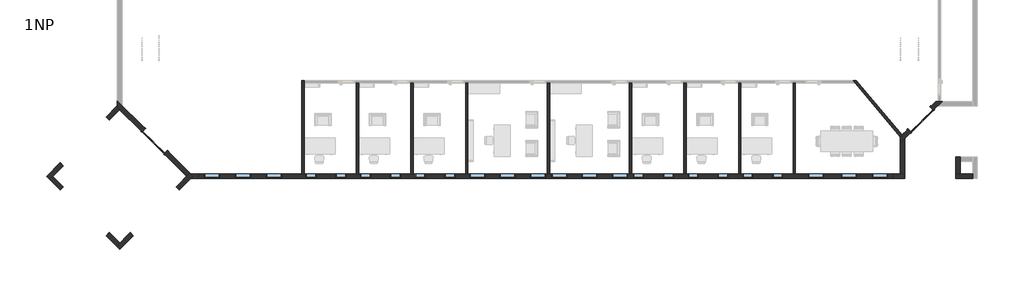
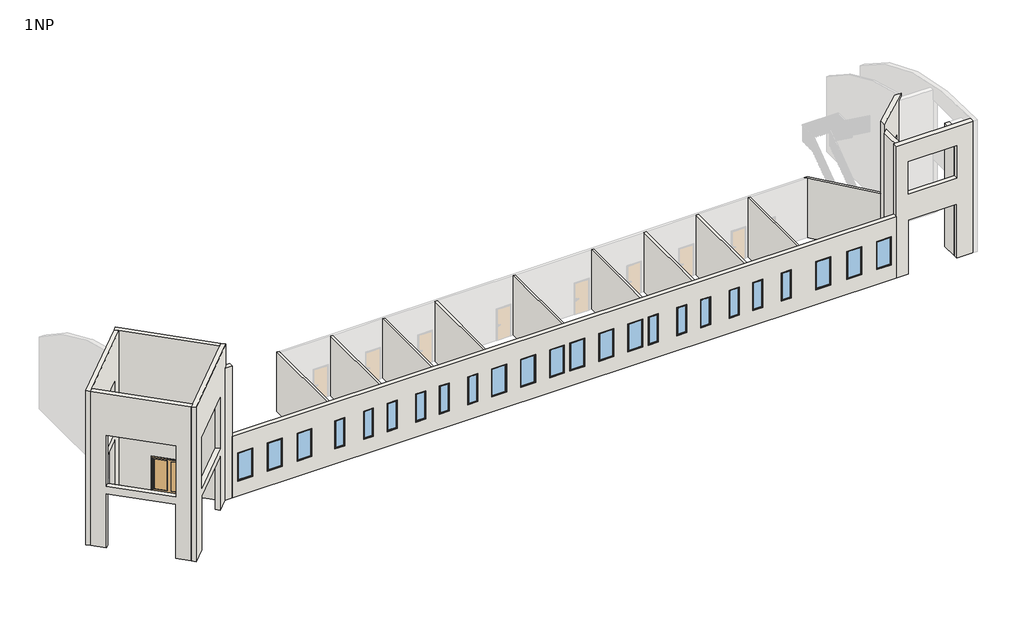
# One storey, part 1 of 2: 24 windows, 20 walls, 2 doors.
"""IFC4 building model written with IfcOpenShell, lengths in millimetres."""

from ifc_helpers import new_model, si_unit, frame, origin, origin_with_axes, place, context, project, spatial, polyline, circle_curve, ellipse_curve, outline, extrude, faceted_brep, transform, mapped, element, save
from ifc_brep_helpers import plane_surface, cylinder_surface, advanced_brep
from components import door_1800_x_1970mm_ce9160c6, door_1800_x_1970mm_3c2632e2, window_0610_x_1830mm_aeee110f, window_0915_x_1830mm_7ee91fd3

model = new_model("IFC4")

# Units and contexts
model_context = context("Model", 3, world=origin())
ifc_project = project(units=[si_unit("LENGTHUNIT", "METRE", prefix="MILLI")], contexts=[model_context])

# Site, building, storey
site = spatial("IfcSite", under=ifc_project)
building = spatial("IfcBuilding", under=site)
storey = spatial("IfcBuildingStorey", under=building, Name="1NP", Elevation=0.0)

# Doors
placement = place(None, origin())
door_1800_x_1970mm_shape = door_1800_x_1970mm_ce9160c6(model_context)
element("IfcDoor", 1, ObjectType="Dvoukridle prosklene : 1800 x 1970mm", at=placement, inside=storey, context=model_context, shape_type="MappedRepresentation", body=[
    mapped(door_1800_x_1970mm_shape, transform((-9492.0310093, -2706.151406, 0.0), x_axis=(-0.7071067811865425, 0.7071067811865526, 0.0), y_axis=(-0.7071067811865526, -0.7071067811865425, 0.0), z_axis=(0.0, 0.0, 1.0))),
])
door_1800_x_1970mm_2_shape = door_1800_x_1970mm_3c2632e2(model_context)
element("IfcDoor", 2, ObjectType="Dvoukridle prosklene : 1800 x 1970mm", at=placement, inside=storey, context=model_context, shape_type="MappedRepresentation", body=[
    mapped(door_1800_x_1970mm_2_shape, transform((35397.5898577, -1433.3591998, 0.0), x_axis=(0.7071067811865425, 0.7071067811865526, 0.0), y_axis=(-0.7071067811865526, 0.7071067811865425, 0.0), z_axis=(0.0, 0.0, 1.0))),
])

# Walls
element("IfcWall", 3, ObjectType="Exterior - EIFS on Mtl. Stud", at=placement, inside=storey, context=model_context, shape_type="AdvancedBrep", body=[
    advanced_brep(
    [(38455.6755273, -4624.9448694, 0.0), (37722.6755273, -4624.9448694, 0.0), (37455.6755273, -4624.9448694, 0.0), (37455.6755273, -4624.9448694, 3500.0), (34472.6755273, -4624.9448694, 3500.0), (34472.6755273, -4624.9448694, 0.0), (34205.6755273, -4624.9448694, 0.0), (33755.6755273, -4624.9448694, 0.0), (33755.6755273, -4624.9448694, 4000.0), (33755.6755273, -4624.9448694, 8556.4380679), (38455.6755273, -4624.9448694, 8556.4380679), (37455.6755273, -4624.9448694, 7300.0), (34472.6755273, -4624.9448694, 7300.0), (34472.6755273, -4624.9448694, 5200.0), (37455.6755273, -4624.9448694, 5200.0), (38455.6755273, -4891.9448694, 0.0), (38455.6755273, -4891.9448694, 8541.7849302), (33755.6755273, -4891.9448694, 8541.7849302), (33755.6755273, -4891.9448694, 4000.0), (33755.6755273, -4891.9448694, 0.0), (34472.6755273, -4891.9448694, 0.0), (34472.6755273, -4891.9448694, 3500.0), (37455.6755273, -4891.9448694, 3500.0), (37455.6755273, -4891.9448694, 0.0), (37455.6755273, -4891.9448694, 7300.0), (37455.6755273, -4891.9448694, 5200.0), (34472.6755273, -4891.9448694, 5200.0), (34472.6755273, -4891.9448694, 7300.0)],
    [
        (0, 1),
        (1, 2),
        (2, 3),
        (3, 4),
        (4, 5),
        (5, 6),
        (6, 7),
        (7, 8),
        (8, 9),
        (9, 10),
        (10, 0),
        (11, 12),
        (12, 13),
        (13, 14),
        (14, 11),
        (15, 16),
        (16, 17),
        (17, 18),
        (18, 19),
        (19, 20),
        (20, 21),
        (21, 22),
        (22, 23),
        (23, 15),
        (24, 25),
        (25, 26),
        (26, 27),
        (27, 24),
        (0, 15),
        (23, 2),
        (3, 22),
        (21, 4),
        (20, 5),
        (19, 7),
        (17, 9, circle_curve(frame((33755.6755273, -3782.5530793, -9232.9575956), z_axis=(-1.0, 0.0, 0.0), x_axis=(0.0, -1.0, 0.0)), 17809.3296337)),
        (11, 24),
        (27, 12),
        (13, 26),
        (25, 14),
        (10, 16, circle_curve(frame((38455.6755273, -3782.5530793, -9232.9575956), z_axis=(1.0, 0.0, 0.0), x_axis=(0.0, -1.0, 0.0)), 17809.3296337)),
    ],
    [
        plane_surface(frame((12455.6755273, -4624.9448694, 0.0), z_axis=(0.0, 1.0, 0.0), x_axis=(-1.0, 0.0, 0.0))),
        plane_surface(frame((12455.6755273, -4891.9448694, 0.0), z_axis=(0.0, -1.0, 0.0), x_axis=(1.0, 0.0, 0.0))),
        plane_surface(frame((38589.1755273, -4624.9448694, 0.0), z_axis=(0.0, 0.0, -1.0), x_axis=(0.0, -1.0, 0.0))),
        plane_surface(frame((37589.1755273, -4624.9448694, 3500.0), z_axis=(0.0, 0.0, -1.0), x_axis=(0.0, -1.0, 0.0))),
        plane_surface(frame((34472.6755273, -4624.9448694, 3500.0), z_axis=(1.0, 0.0, 0.0), x_axis=(0.0, -1.0, 0.0))),
        plane_surface(frame((34472.6755273, -4624.9448694, 0.0), z_axis=(0.0, 0.0, -1.0), x_axis=(0.0, -1.0, 0.0))),
        plane_surface(frame((33755.6755273, -4624.9448694, 0.0), z_axis=(-1.0, 0.0, 0.0), x_axis=(0.0, -1.0, 0.0))),
        plane_surface(frame((37589.1755273, -4624.9448694, 7300.0), z_axis=(0.0, 0.0, -1.0), x_axis=(0.0, -1.0, 0.0))),
        plane_surface(frame((34339.1755273, -4624.9448694, 5200.0), z_axis=(0.0, 0.0, 1.0), x_axis=(0.0, -1.0, 0.0))),
        plane_surface(frame((38455.6755273, 5741.5551306, 0.0), z_axis=(1.0, 0.0, 0.0), x_axis=(0.0, -1.0, 0.0))),
        plane_surface(frame((34472.6755273, -4758.4448694, 0.0), z_axis=(1.0, 0.0, 0.0), x_axis=(0.0, 1.0, 0.0))),
        plane_surface(frame((37455.6755273, -4758.4448694, 0.0), z_axis=(-1.0, 0.0, 0.0), x_axis=(0.0, -1.0, 0.0))),
        cylinder_surface(frame((39922.6755273, -3782.5530793, -9232.9575956), z_axis=(1.0, 0.0, 0.0), x_axis=(0.0, -1.0, 0.0)), 17809.3296337),
    ],
    [
        (0, [[1, 2, 3, 4, 5, 6, 7, 8, 9, 10, 11], [12, 13, 14, 15]]),
        (1, [[16, 17, 18, 19, 20, 21, 22, 23, 24], [25, 26, 27, 28]]),
        (2, [[-2, -1, 29, -24, 30]]),
        (3, [[-4, 31, -22, 32]]),
        (4, [[-5, -32, -21, 33]]),
        (5, [[-7, -6, -33, -20, 34]]),
        (6, [[-9, -8, -34, -19, -18, 35]]),
        (7, [[-12, 36, -28, 37]]),
        (8, [[-14, 38, -26, 39]]),
        (9, [[-11, 40, -16, -29]]),
        (10, [[-13, -37, -27, -38]]),
        (11, [[-3, -30, -23, -31]]),
        (11, [[-15, -39, -25, -36]]),
        (12, [[-10, -35, -17, -40]]),
    ],
),
])
element("IfcWall", 4, ObjectType="Exterior - EIFS on Mtl. Stud", at=placement, inside=storey, context=model_context, shape_type="AdvancedBrep", body=[
    advanced_brep(
    [(-6943.1051418, -4624.9448694, 0.0), (-7387.8076313, -4624.9448694, 0.0), (-7387.8076313, -4624.9448694, 8556.4380679), (-6943.1051418, -4624.9448694, 8556.4380679), (-6943.1051418, -4891.9448694, 0.0), (-6943.1051418, -4891.9448694, 8541.7849302), (-7387.8076313, -4891.9448694, 8541.7849302), (-7387.8076313, -4891.9448694, 0.0), (-7254.3076313, -4758.4448694, 0.0), (-7254.3076313, -4758.4448694, 8549.6141311)],
    [
        (0, 1),
        (1, 2),
        (2, 3),
        (3, 0),
        (4, 5),
        (5, 6),
        (6, 7),
        (7, 4),
        (0, 4),
        (7, 8),
        (8, 1),
        (3, 5, circle_curve(frame((-6943.1051418, -3782.5530793, -9232.9575956), z_axis=(1.0, 0.0, 0.0), x_axis=(0.0, -1.0, 0.0)), 17809.3296337)),
        (8, 9),
        (9, 2, ellipse_curve(frame((-8230.1994214, -3782.5530793, -9232.9575956), z_axis=(-0.7071067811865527, -0.7071067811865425, 0.0), x_axis=(0.7071067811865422, -0.7071067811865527, 0.0)), 25186.1955048, 17809.3296337)),
        (6, 9, ellipse_curve(frame((-6278.4158411, -3782.5530793, -9232.9575956), z_axis=(-0.7071067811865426, 0.7071067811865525, 0.0), x_axis=(0.7071067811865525, 0.7071067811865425, 0.0)), 25186.1955048, 17809.3296337)),
    ],
    [
        plane_surface(frame((12455.6755273, -4624.9448694, 0.0), z_axis=(0.0, 1.0, 0.0), x_axis=(-1.0, 0.0, 0.0))),
        plane_surface(frame((12455.6755273, -4891.9448694, 0.0), z_axis=(0.0, -1.0, 0.0), x_axis=(1.0, 0.0, 0.0))),
        plane_surface(frame((-6943.1051418, -4624.9448694, 0.0), z_axis=(0.0, 0.0, -1.0), x_axis=(0.0, -1.0, 0.0))),
        plane_surface(frame((-6943.1051418, -4624.9448694, 4000.0), z_axis=(1.0, 0.0, 0.0), x_axis=(0.0, -1.0, 0.0))),
        plane_surface(frame((-9352.1166743, -2660.6358263, -427.8219034), z_axis=(-0.7071067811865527, -0.7071067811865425, 0.0), x_axis=(0.7071067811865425, -0.7071067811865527, 0.0))),
        plane_surface(frame((-9352.1166743, -6856.2539125, -427.8219034), z_axis=(-0.7071067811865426, 0.7071067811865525, 0.0), x_axis=(-0.7071067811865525, -0.7071067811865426, 0.0))),
        cylinder_surface(frame((39922.6755273, -3782.5530793, -9232.9575956), z_axis=(1.0, 0.0, 0.0), x_axis=(0.0, -1.0, 0.0)), 17809.3296337),
    ],
    [
        (0, [[1, 2, 3, 4]]),
        (1, [[5, 6, 7, 8]]),
        (2, [[-1, 9, -8, 10, 11]]),
        (3, [[-4, 12, -5, -9]]),
        (4, [[-2, -11, 13, 14]]),
        (5, [[-10, -7, 15, -13]]),
        (6, [[-3, -14, -15, -6, -12]]),
    ],
),
])
element("IfcWall", 5, ObjectType="Exterior - EIFS on Mtl. Stud", at=placement, inside=storey, context=model_context, shape_type="Brep", body=[
    faceted_brep([(37722.6755273, -4624.9448694, 8000.0), (37722.6755273, -4624.9448694, 0.0), (37722.6755273, -3891.9448694, 0.0), (37722.6755273, -3624.9448694, 0.0), (37722.6755273, -3624.9448694, 8000.0), (37722.6755273, -3891.9448694, 8000.0), (37455.6755273, -4624.9448694, 0.0), (37455.6755273, -4624.9448694, 3500.0), (37455.6755273, -4624.9448694, 5200.0), (37455.6755273, -4624.9448694, 7300.0), (37455.6755273, -4624.9448694, 8000.0), (37455.6755273, -3624.9448694, 8000.0), (37455.6755273, -3624.9448694, 0.0)], [[[0, 1, 2, 3, 4, 5]], [[6, 7, 8, 9, 10, 11, 12]], [[3, 2, 1, 6, 12]], [[0, 5, 4, 11, 10]], [[4, 3, 12, 11]], [[0, 10, 9, 8, 7, 6, 1]]]),
])
element("IfcWall", 6, ObjectType="Exterior - EIFS on Mtl. Stud", at=placement, inside=storey, context=model_context, shape_type="AdvancedBrep", body=[
    advanced_brep(
    [(36270.5742736, -374.9448694, 0.0), (35951.8776052, -693.6415378, 0.0), (35951.8776052, -693.6415378, 2134.0), (34657.8721956, -1987.6469473, 2134.0), (34657.8721956, -1987.6469473, 0.0), (34302.1897841, -2343.3293589, 0.0), (34205.6755273, -2439.8436157, 0.0), (34205.6755273, -2439.8436157, 3850.0), (34205.6755273, -2439.8436157, 8525.6840557), (36270.5742736, -374.9448694, 8247.3292525), (35823.8290879, -821.6900551, 4000.0), (35823.8290879, -821.6900551, 6134.0), (34529.8236783, -2115.6954646, 6134.0), (34529.8236783, -2115.6954646, 4000.0), (36140.6751158, -882.4390484, 2134.0), (36140.6751158, -882.4390484, 0.0), (36381.1692947, -641.9448694, 0.0), (36648.1692947, -374.9448694, 0.0), (36648.1692947, -374.9448694, 8000.0), (36648.1692947, -374.9448694, 8247.3292525), (34205.6755273, -2817.4386368, 8550.2023068), (34205.6755273, -2817.4386368, 8000.0), (34205.6755273, -2817.4386368, 0.0), (34472.6755273, -2550.4386368, 0.0), (34846.6697062, -2176.4444579, 0.0), (34846.6697062, -2176.4444579, 2134.0), (36012.6265985, -1010.4875656, 4000.0), (34718.6211889, -2304.4929752, 4000.0), (34718.6211889, -2304.4929752, 6134.0), (36012.6265985, -1010.4875656, 6134.0), (36419.9255273, -374.9448694, 0.0), (36558.4255273, -374.9448694, 0.0), (34205.6755273, -2443.7758967, 0.0), (36419.9255273, -374.9448694, 8247.3292525), (36558.4255273, -374.9448694, 8247.3292525)],
    [
        (0, 1),
        (1, 2),
        (2, 3),
        (3, 4),
        (4, 5),
        (5, 6),
        (6, 7),
        (7, 8),
        (8, 9, ellipse_curve(frame((32862.9660637, -3782.5530793, -9232.9575956), z_axis=(-0.7071067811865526, 0.7071067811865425, 0.0), x_axis=(0.7071067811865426, 0.7071067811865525, 0.0)), 25186.1955048, 17809.3296337)),
        (9, 0),
        (10, 11),
        (11, 12),
        (12, 13),
        (13, 10),
        (14, 15),
        (15, 16),
        (16, 17),
        (17, 18),
        (18, 19),
        (19, 20, ellipse_curve(frame((33240.5610849, -3782.5530793, -9232.9575956), z_axis=(0.7071067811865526, -0.7071067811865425, 0.0), x_axis=(0.7071067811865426, 0.7071067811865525, 0.0)), 25186.1955048, 17809.3296337)),
        (20, 21),
        (21, 22),
        (22, 23),
        (23, 24),
        (24, 25),
        (25, 14),
        (26, 27),
        (27, 28),
        (28, 29),
        (29, 26),
        (15, 1),
        (0, 30),
        (30, 31),
        (31, 17),
        (22, 32),
        (32, 6),
        (4, 24),
        (9, 33),
        (33, 34),
        (34, 19),
        (20, 8, circle_curve(frame((34205.6755273, -3782.5530793, -9232.9575956), z_axis=(-1.0, 0.0, 0.0), x_axis=(0.0, -1.0, 0.0)), 17809.3296337)),
        (14, 2),
        (25, 3),
        (26, 10),
        (13, 27),
        (12, 28),
        (11, 29),
    ],
    [
        plane_surface(frame((38416.1447376, 1770.6255947, 0.0), z_axis=(-0.7071067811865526, 0.7071067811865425, 0.0), x_axis=(-0.7071067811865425, -0.7071067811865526, 0.0))),
        plane_surface(frame((38604.9422482, 1581.8280841, 0.0), z_axis=(0.7071067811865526, -0.7071067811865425, 0.0), x_axis=(0.7071067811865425, 0.7071067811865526, 0.0))),
        plane_surface(frame((36231.4730288, -414.0461141, 0.0), z_axis=(0.0, 0.0, -1.0), x_axis=(0.7071067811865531, -0.707106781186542, 0.0))),
        plane_surface(frame((38455.6755273, -374.9448694, 0.0), z_axis=(0.0, 1.0, 0.0), x_axis=(-1.0, 0.0, 0.0))),
        plane_surface(frame((34205.6755273, -4758.4448694, 0.0), z_axis=(-1.0, 0.0, 0.0), x_axis=(0.0, -1.0, 0.0))),
        cylinder_surface(frame((39922.6755273, -3782.5530793, -9232.9575956), z_axis=(1.0, 0.0, 0.0), x_axis=(0.0, -1.0, 0.0)), 17809.3296337),
        plane_surface(frame((35951.8776052, -693.6415378, 0.0), z_axis=(-0.7071067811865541, -0.7071067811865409, 0.0), x_axis=(0.7071067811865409, -0.7071067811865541, 0.0))),
        plane_surface(frame((35951.8776052, -693.6415378, 2134.0), z_axis=(0.0, 0.0, -1.0), x_axis=(0.7071067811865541, -0.7071067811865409, 0.0))),
        plane_surface(frame((34657.8721956, -1987.6469473, 2134.0), z_axis=(0.707106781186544, 0.7071067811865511, 0.0), x_axis=(0.7071067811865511, -0.707106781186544, 0.0))),
        plane_surface(frame((36012.6265985, -1010.4875656, 4000.0), z_axis=(0.0, 0.0, 1.0), x_axis=(-0.7071067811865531, 0.707106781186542, 0.0))),
        plane_surface(frame((34718.6211889, -2304.4929752, 4000.0), z_axis=(0.707106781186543, 0.7071067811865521, 0.0), x_axis=(-0.7071067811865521, 0.707106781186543, 0.0))),
        plane_surface(frame((34718.6211889, -2304.4929752, 6134.0), z_axis=(0.0, 0.0, -1.0000000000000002), x_axis=(-0.707106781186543, 0.7071067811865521, 0.0))),
        plane_surface(frame((36012.6265985, -1010.4875656, 6134.0), z_axis=(-0.707106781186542, -0.7071067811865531, 0.0), x_axis=(-0.7071067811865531, 0.707106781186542, 0.0))),
    ],
    [
        (0, [[1, 2, 3, 4, 5, 6, 7, 8, 9, 10], [11, 12, 13, 14]]),
        (1, [[15, 16, 17, 18, 19, 20, 21, 22, 23, 24, 25, 26], [27, 28, 29, 30]]),
        (2, [[-17, -16, 31, -1, 32, 33, 34]]),
        (2, [[-24, -23, 35, 36, -6, -5, 37]]),
        (3, [[-10, 38, 39, 40, -19, -18, -34, -33, -32]]),
        (4, [[-36, -35, -22, -21, 41, -8, -7]]),
        (5, [[-9, -41, -20, -40, -39, -38]]),
        (6, [[-2, -31, -15, 42]]),
        (7, [[-3, -42, -26, 43]]),
        (8, [[-4, -43, -25, -37]]),
        (9, [[-27, 44, -14, 45]]),
        (10, [[-28, -45, -13, 46]]),
        (11, [[-29, -46, -12, 47]]),
        (12, [[-30, -47, -11, -44]]),
    ],
),
])
element("IfcWall", 7, ObjectType="Exterior - EIFS on Mtl. Stud", at=placement, inside=storey, context=model_context, shape_type="Brep", body=[
    faceted_brep([(34472.6755273, -4624.9448694, 8000.0), (34472.6755273, -4624.9448694, 7300.0), (34472.6755273, -4624.9448694, 5200.0), (34472.6755273, -4624.9448694, 3500.0), (34472.6755273, -4624.9448694, 0.0), (34472.6755273, -2550.4386368, 0.0), (34472.6755273, -2550.4386368, 8000.0), (34205.6755273, -4624.9448694, 0.0), (34205.6755273, -4624.9448694, 8000.0), (34205.6755273, -2817.4386368, 8000.0), (34205.6755273, -2817.4386368, 0.0)], [[[0, 1, 2, 3, 4, 5, 6]], [[7, 8, 9, 10]], [[5, 4, 7, 10]], [[0, 6, 9, 8]], [[5, 10, 9, 6]], [[0, 8, 7, 4, 3, 2, 1]]]),
])
element("IfcWall", 8, ObjectType="Exterior - EIFS on Mtl. Stud", at=placement, inside=storey, context=model_context, shape_type="Brep", body=[
    faceted_brep([(33755.6755273, -4624.9448694, 0.0), (28058.4255273, -4624.9448694, 0.0), (27919.9255273, -4624.9448694, 0.0), (24858.4255273, -4624.9448694, 0.0), (24719.9255273, -4624.9448694, 0.0), (21658.4255273, -4624.9448694, 0.0), (21519.9255273, -4624.9448694, 0.0), (18458.4255273, -4624.9448694, 0.0), (18319.9255273, -4624.9448694, 0.0), (13658.4255273, -4624.9448694, 0.0), (13519.9255273, -4624.9448694, 0.0), (8858.4255273, -4624.9448694, 0.0), (8719.9255273, -4624.9448694, 0.0), (5658.4255273, -4624.9448694, 0.0), (5519.9255273, -4624.9448694, 0.0), (2458.4255273, -4624.9448694, 0.0), (2319.9255273, -4624.9448694, 0.0), (-741.5744727, -4624.9448694, 0.0), (-880.0744727, -4624.9448694, 0.0), (-6943.1051418, -4624.9448694, 0.0), (-6943.1051418, -4624.9448694, 4000.0), (33755.6755273, -4624.9448694, 4000.0), (33455.6755273, -4624.9448694, 970.0), (33455.6755273, -4624.9448694, 2800.0), (32540.6755273, -4624.9448694, 2800.0), (32540.6755273, -4624.9448694, 970.0), (31640.6755273, -4624.9448694, 970.0), (31640.6755273, -4624.9448694, 2800.0), (30725.6755273, -4624.9448694, 2800.0), (30725.6755273, -4624.9448694, 970.0), (29725.6755273, -4624.9448694, 970.0), (29725.6755273, -4624.9448694, 2800.0), (28810.6755273, -4624.9448694, 2800.0), (28810.6755273, -4624.9448694, 970.0), (-5680.0744727, -4624.9448694, 970.0), (-5680.0744727, -4624.9448694, 2800.0), (-6595.0744727, -4624.9448694, 2800.0), (-6595.0744727, -4624.9448694, 970.0), (-3865.0744727, -4624.9448694, 970.0), (-3865.0744727, -4624.9448694, 2800.0), (-4780.0744727, -4624.9448694, 2800.0), (-4780.0744727, -4624.9448694, 970.0), (-2050.0744727, -4624.9448694, 970.0), (-2050.0744727, -4624.9448694, 2800.0), (-2965.0744727, -4624.9448694, 2800.0), (-2965.0744727, -4624.9448694, 970.0), (-31.5744727, -4624.9448694, 970.0), (-31.5744727, -4624.9448694, 2800.0), (-641.5744727, -4624.9448694, 2800.0), (-641.5744727, -4624.9448694, 970.0), (1719.9255273, -4624.9448694, 970.0), (1719.9255273, -4624.9448694, 2800.0), (1109.9255273, -4624.9448694, 2800.0), (1109.9255273, -4624.9448694, 970.0), (3168.4255273, -4624.9448694, 970.0), (3168.4255273, -4624.9448694, 2800.0), (2558.4255273, -4624.9448694, 2800.0), (2558.4255273, -4624.9448694, 970.0), (4919.9255273, -4624.9448694, 970.0), (4919.9255273, -4624.9448694, 2800.0), (4309.9255273, -4624.9448694, 2800.0), (4309.9255273, -4624.9448694, 970.0), (25568.4255273, -4624.9448694, 970.0), (25568.4255273, -4624.9448694, 2800.0), (24958.4255273, -4624.9448694, 2800.0), (24958.4255273, -4624.9448694, 970.0), (27319.9255273, -4624.9448694, 970.0), (27319.9255273, -4624.9448694, 2800.0), (26709.9255273, -4624.9448694, 2800.0), (26709.9255273, -4624.9448694, 970.0), (22368.4255273, -4624.9448694, 970.0), (22368.4255273, -4624.9448694, 2800.0), (21758.4255273, -4624.9448694, 2800.0), (21758.4255273, -4624.9448694, 970.0), (24119.9255273, -4624.9448694, 970.0), (24119.9255273, -4624.9448694, 2800.0), (23509.9255273, -4624.9448694, 2800.0), (23509.9255273, -4624.9448694, 970.0), (19168.4255273, -4624.9448694, 970.0), (19168.4255273, -4624.9448694, 2800.0), (18558.4255273, -4624.9448694, 2800.0), (18558.4255273, -4624.9448694, 970.0), (20919.9255273, -4624.9448694, 970.0), (20919.9255273, -4624.9448694, 2800.0), (20309.9255273, -4624.9448694, 2800.0), (20309.9255273, -4624.9448694, 970.0), (9873.4255273, -4624.9448694, 970.0), (9873.4255273, -4624.9448694, 2800.0), (8958.4255273, -4624.9448694, 2800.0), (8958.4255273, -4624.9448694, 970.0), (11646.6755273, -4624.9448694, 970.0), (11646.6755273, -4624.9448694, 2800.0), (10731.6755273, -4624.9448694, 2800.0), (10731.6755273, -4624.9448694, 970.0), (6368.4255273, -4624.9448694, 970.0), (6368.4255273, -4624.9448694, 2800.0), (5758.4255273, -4624.9448694, 2800.0), (5758.4255273, -4624.9448694, 970.0), (8119.9255273, -4624.9448694, 970.0), (8119.9255273, -4624.9448694, 2800.0), (7509.9255273, -4624.9448694, 2800.0), (7509.9255273, -4624.9448694, 970.0), (13419.9255273, -4624.9448694, 970.0), (13419.9255273, -4624.9448694, 2800.0), (12504.9255273, -4624.9448694, 2800.0), (12504.9255273, -4624.9448694, 970.0), (14673.4255273, -4624.9448694, 970.0), (14673.4255273, -4624.9448694, 2800.0), (13758.4255273, -4624.9448694, 2800.0), (13758.4255273, -4624.9448694, 970.0), (16446.6755273, -4624.9448694, 970.0), (16446.6755273, -4624.9448694, 2800.0), (15531.6755273, -4624.9448694, 2800.0), (15531.6755273, -4624.9448694, 970.0), (18219.9255273, -4624.9448694, 970.0), (18219.9255273, -4624.9448694, 2800.0), (17304.9255273, -4624.9448694, 2800.0), (17304.9255273, -4624.9448694, 970.0), (-6943.1051418, -4891.9448694, 0.0), (33755.6755273, -4891.9448694, 0.0), (33755.6755273, -4891.9448694, 4000.0), (-6943.1051418, -4891.9448694, 4000.0), (33455.6755273, -4891.9448694, 2800.0), (33455.6755273, -4891.9448694, 970.0), (32540.6755273, -4891.9448694, 970.0), (32540.6755273, -4891.9448694, 2800.0), (31640.6755273, -4891.9448694, 2800.0), (31640.6755273, -4891.9448694, 970.0), (30725.6755273, -4891.9448694, 970.0), (30725.6755273, -4891.9448694, 2800.0), (29725.6755273, -4891.9448694, 2800.0), (29725.6755273, -4891.9448694, 970.0), (28810.6755273, -4891.9448694, 970.0), (28810.6755273, -4891.9448694, 2800.0), (-5680.0744727, -4891.9448694, 2800.0), (-5680.0744727, -4891.9448694, 970.0), (-6595.0744727, -4891.9448694, 970.0), (-6595.0744727, -4891.9448694, 2800.0), (-3865.0744727, -4891.9448694, 2800.0), (-3865.0744727, -4891.9448694, 970.0), (-4780.0744727, -4891.9448694, 970.0), (-4780.0744727, -4891.9448694, 2800.0), (-2050.0744727, -4891.9448694, 2800.0), (-2050.0744727, -4891.9448694, 970.0), (-2965.0744727, -4891.9448694, 970.0), (-2965.0744727, -4891.9448694, 2800.0), (-31.5744727, -4891.9448694, 2800.0), (-31.5744727, -4891.9448694, 970.0), (-641.5744727, -4891.9448694, 970.0), (-641.5744727, -4891.9448694, 2800.0), (1719.9255273, -4891.9448694, 2800.0), (1719.9255273, -4891.9448694, 970.0), (1109.9255273, -4891.9448694, 970.0), (1109.9255273, -4891.9448694, 2800.0), (3168.4255273, -4891.9448694, 2800.0), (3168.4255273, -4891.9448694, 970.0), (2558.4255273, -4891.9448694, 970.0), (2558.4255273, -4891.9448694, 2800.0), (4919.9255273, -4891.9448694, 2800.0), (4919.9255273, -4891.9448694, 970.0), (4309.9255273, -4891.9448694, 970.0), (4309.9255273, -4891.9448694, 2800.0), (25568.4255273, -4891.9448694, 2800.0), (25568.4255273, -4891.9448694, 970.0), (24958.4255273, -4891.9448694, 970.0), (24958.4255273, -4891.9448694, 2800.0), (27319.9255273, -4891.9448694, 2800.0), (27319.9255273, -4891.9448694, 970.0), (26709.9255273, -4891.9448694, 970.0), (26709.9255273, -4891.9448694, 2800.0), (22368.4255273, -4891.9448694, 2800.0), (22368.4255273, -4891.9448694, 970.0), (21758.4255273, -4891.9448694, 970.0), (21758.4255273, -4891.9448694, 2800.0), (24119.9255273, -4891.9448694, 2800.0), (24119.9255273, -4891.9448694, 970.0), (23509.9255273, -4891.9448694, 970.0), (23509.9255273, -4891.9448694, 2800.0), (19168.4255273, -4891.9448694, 2800.0), (19168.4255273, -4891.9448694, 970.0), (18558.4255273, -4891.9448694, 970.0), (18558.4255273, -4891.9448694, 2800.0), (20919.9255273, -4891.9448694, 2800.0), (20919.9255273, -4891.9448694, 970.0), (20309.9255273, -4891.9448694, 970.0), (20309.9255273, -4891.9448694, 2800.0), (9873.4255273, -4891.9448694, 2800.0), (9873.4255273, -4891.9448694, 970.0), (8958.4255273, -4891.9448694, 970.0), (8958.4255273, -4891.9448694, 2800.0), (11646.6755273, -4891.9448694, 2800.0), (11646.6755273, -4891.9448694, 970.0), (10731.6755273, -4891.9448694, 970.0), (10731.6755273, -4891.9448694, 2800.0), (6368.4255273, -4891.9448694, 2800.0), (6368.4255273, -4891.9448694, 970.0), (5758.4255273, -4891.9448694, 970.0), (5758.4255273, -4891.9448694, 2800.0), (8119.9255273, -4891.9448694, 2800.0), (8119.9255273, -4891.9448694, 970.0), (7509.9255273, -4891.9448694, 970.0), (7509.9255273, -4891.9448694, 2800.0), (13419.9255273, -4891.9448694, 2800.0), (13419.9255273, -4891.9448694, 970.0), (12504.9255273, -4891.9448694, 970.0), (12504.9255273, -4891.9448694, 2800.0), (14673.4255273, -4891.9448694, 970.0), (13758.4255273, -4891.9448694, 970.0), (13758.4255273, -4891.9448694, 2800.0), (14673.4255273, -4891.9448694, 2800.0), (16446.6755273, -4891.9448694, 970.0), (15531.6755273, -4891.9448694, 970.0), (15531.6755273, -4891.9448694, 2800.0), (16446.6755273, -4891.9448694, 2800.0), (18219.9255273, -4891.9448694, 970.0), (17304.9255273, -4891.9448694, 970.0), (17304.9255273, -4891.9448694, 2800.0), (18219.9255273, -4891.9448694, 2800.0)], [[[0, 1, 2, 3, 4, 5, 6, 7, 8, 9, 10, 11, 12, 13, 14, 15, 16, 17, 18, 19, 20, 21], [22, 23, 24, 25], [26, 27, 28, 29], [30, 31, 32, 33], [34, 35, 36, 37], [38, 39, 40, 41], [42, 43, 44, 45], [46, 47, 48, 49], [50, 51, 52, 53], [54, 55, 56, 57], [58, 59, 60, 61], [62, 63, 64, 65], [66, 67, 68, 69], [70, 71, 72, 73], [74, 75, 76, 77], [78, 79, 80, 81], [82, 83, 84, 85], [86, 87, 88, 89], [90, 91, 92, 93], [94, 95, 96, 97], [98, 99, 100, 101], [102, 103, 104, 105], [106, 107, 108, 109], [110, 111, 112, 113], [114, 115, 116, 117]], [[118, 119, 120, 121], [122, 123, 124, 125], [126, 127, 128, 129], [130, 131, 132, 133], [134, 135, 136, 137], [138, 139, 140, 141], [142, 143, 144, 145], [146, 147, 148, 149], [150, 151, 152, 153], [154, 155, 156, 157], [158, 159, 160, 161], [162, 163, 164, 165], [166, 167, 168, 169], [170, 171, 172, 173], [174, 175, 176, 177], [178, 179, 180, 181], [182, 183, 184, 185], [186, 187, 188, 189], [190, 191, 192, 193], [194, 195, 196, 197], [198, 199, 200, 201], [202, 203, 204, 205], [206, 207, 208, 209], [210, 211, 212, 213], [214, 215, 216, 217]], [[19, 18, 17, 16, 15, 14, 13, 12, 11, 10, 9, 8, 7, 6, 5, 4, 3, 2, 1, 0, 119, 118]], [[20, 19, 118, 121]], [[21, 20, 121, 120]], [[21, 120, 119, 0]], [[23, 22, 123, 122]], [[24, 23, 122, 125]], [[25, 24, 125, 124]], [[22, 25, 124, 123]], [[27, 26, 127, 126]], [[28, 27, 126, 129]], [[29, 28, 129, 128]], [[26, 29, 128, 127]], [[31, 30, 131, 130]], [[32, 31, 130, 133]], [[33, 32, 133, 132]], [[30, 33, 132, 131]], [[34, 135, 134, 35]], [[35, 134, 137, 36]], [[136, 37, 36, 137]], [[135, 34, 37, 136]], [[39, 38, 139, 138]], [[40, 39, 138, 141]], [[41, 40, 141, 140]], [[38, 41, 140, 139]], [[43, 42, 143, 142]], [[44, 43, 142, 145]], [[45, 44, 145, 144]], [[42, 45, 144, 143]], [[47, 46, 147, 146]], [[48, 47, 146, 149]], [[49, 48, 149, 148]], [[46, 49, 148, 147]], [[51, 50, 151, 150]], [[52, 51, 150, 153]], [[53, 52, 153, 152]], [[50, 53, 152, 151]], [[55, 54, 155, 154]], [[56, 55, 154, 157]], [[57, 56, 157, 156]], [[54, 57, 156, 155]], [[59, 58, 159, 158]], [[60, 59, 158, 161]], [[61, 60, 161, 160]], [[58, 61, 160, 159]], [[63, 62, 163, 162]], [[64, 63, 162, 165]], [[65, 64, 165, 164]], [[62, 65, 164, 163]], [[67, 66, 167, 166]], [[68, 67, 166, 169]], [[69, 68, 169, 168]], [[66, 69, 168, 167]], [[71, 70, 171, 170]], [[72, 71, 170, 173]], [[73, 72, 173, 172]], [[70, 73, 172, 171]], [[75, 74, 175, 174]], [[76, 75, 174, 177]], [[77, 76, 177, 176]], [[74, 77, 176, 175]], [[79, 78, 179, 178]], [[80, 79, 178, 181]], [[81, 80, 181, 180]], [[78, 81, 180, 179]], [[83, 82, 183, 182]], [[84, 83, 182, 185]], [[85, 84, 185, 184]], [[82, 85, 184, 183]], [[87, 86, 187, 186]], [[88, 87, 186, 189]], [[89, 88, 189, 188]], [[86, 89, 188, 187]], [[91, 90, 191, 190]], [[92, 91, 190, 193]], [[93, 92, 193, 192]], [[90, 93, 192, 191]], [[95, 94, 195, 194]], [[96, 95, 194, 197]], [[97, 96, 197, 196]], [[94, 97, 196, 195]], [[99, 98, 199, 198]], [[100, 99, 198, 201]], [[101, 100, 201, 200]], [[98, 101, 200, 199]], [[102, 203, 202, 103]], [[103, 202, 205, 104]], [[104, 205, 204, 105]], [[203, 102, 105, 204]], [[107, 106, 206, 209]], [[108, 107, 209, 208]], [[109, 108, 208, 207]], [[106, 109, 207, 206]], [[111, 110, 210, 213]], [[112, 111, 213, 212]], [[113, 112, 212, 211]], [[110, 113, 211, 210]], [[115, 114, 214, 217]], [[116, 115, 217, 216]], [[117, 116, 216, 215]], [[114, 117, 215, 214]]]),
])
element("IfcWall", 9, ObjectType="Exterior - EIFS on Mtl. Stud 2side", at=placement, inside=storey, context=model_context, shape_type="Brep", body=[
    faceted_brep([(-7443.1051418, -4569.6473588, 10000.0), (-7443.1051418, -4569.6473588, 0.0), (-7631.9026524, -4758.4448694, 0.0), (-8244.6106783, -5371.1528953, 0.0), (-8244.6106783, -5371.1528953, 3500.0), (-10931.6164468, -8058.1586638, 3500.0), (-10931.6164468, -8058.1586638, 0.0), (-11544.3244727, -8670.8666897, 0.0), (-11733.1219833, -8859.6642003, 0.0), (-11733.1219833, -8859.6642003, 10000.0), (-11544.3244727, -8670.8666897, 10000.0), (-7631.9026524, -4758.4448694, 10000.0), (-8244.6106783, -5371.1528953, 4000.0), (-8244.6106783, -5371.1528953, 7300.0), (-10931.6164468, -8058.1586638, 7300.0), (-10931.6164468, -8058.1586638, 4000.0), (-7254.3076313, -4758.4448694, 0.0), (-7254.3076313, -4758.4448694, 8549.6141311), (-7254.3076313, -4758.4448694, 10000.0), (-11544.3244727, -9048.4617109, 10000.0), (-11544.3244727, -9048.4617109, 0.0), (-10742.8189362, -8246.9561744, 0.0), (-10742.8189362, -8246.9561744, 3500.0), (-8055.8131677, -5559.9504059, 3500.0), (-8055.8131677, -5559.9504059, 0.0), (-7387.8076313, -4891.9448694, 0.0), (-8055.8131677, -5559.9504059, 4000.0), (-10742.8189362, -8246.9561744, 4000.0), (-10742.8189362, -8246.9561744, 7300.0), (-8055.8131677, -5559.9504059, 7300.0), (-7387.8076313, -4624.9448694, 0.0)], [[[0, 1, 2, 3, 4, 5, 6, 7, 8, 9, 10, 11], [12, 13, 14, 15]], [[16, 17, 18, 19, 20, 21, 22, 23, 24, 25], [26, 27, 28, 29]], [[3, 2, 1, 30, 16, 25, 24]], [[4, 3, 24, 23]], [[5, 4, 23, 22]], [[6, 5, 22, 21]], [[8, 7, 6, 21, 20]], [[0, 11, 10, 9, 19, 18]], [[13, 12, 26, 29]], [[14, 13, 29, 28]], [[15, 14, 28, 27]], [[12, 15, 27, 26]], [[0, 18, 17, 16, 30, 1]], [[9, 8, 20, 19]]]),
])
element("IfcWall", 10, ObjectType="Exterior - EIFS on Mtl. Stud 2side", at=placement, inside=storey, context=model_context, shape_type="Brep", body=[
    faceted_brep([(-7631.9026524, -4758.4448694, 10000.0), (-11544.3244727, -846.0230491, 10000.0), (-11733.1219833, -657.2255385, 10000.0), (-11733.1219833, -657.2255385, 8290.0514578), (-11677.8244727, -712.5230491, 8290.0514578), (-11677.8244727, -712.5230491, 0.0), (-11544.3244727, -846.0230491, 0.0), (-10235.1162674, -2155.2312545, 0.0), (-10235.1162674, -2155.2312545, 2134.0), (-8941.1108578, -3449.2366641, 2134.0), (-8941.1108578, -3449.2366641, 0.0), (-7631.9026524, -4758.4448694, 0.0), (-11544.3244727, -468.428028, 10000.0), (-7443.1051418, -4569.6473588, 10000.0), (-7443.1051418, -4569.6473588, 0.0), (-8752.3133472, -3260.4391535, 0.0), (-8752.3133472, -3260.4391535, 2134.0), (-10046.3187568, -1966.4337439, 2134.0), (-10046.3187568, -1966.4337439, 0.0), (-11410.8244727, -601.928028, 0.0), (-11677.8244727, -334.928028, 0.0), (-11677.8244727, -334.928028, 8239.4808006), (-11677.8244727, -334.928028, 8290.0514578), (-11544.3244727, -468.428028, 8290.0514578), (-11677.8244727, -601.928028, 0.0), (-11677.8244727, -601.928028, 8290.0514578)], [[[0, 1, 2, 3, 4, 5, 6, 7, 8, 9, 10, 11]], [[12, 13, 14, 15, 16, 17, 18, 19, 20, 21, 22, 23]], [[5, 24, 20, 19, 18, 7, 6]], [[14, 11, 10, 15]], [[2, 1, 0, 13, 12]], [[4, 3, 25]], [[5, 4, 25, 22, 21, 20, 24]], [[3, 2, 12, 23, 25]], [[23, 22, 25]], [[11, 14, 13, 0]], [[8, 7, 18, 17]], [[9, 8, 17, 16]], [[10, 9, 16, 15]]]),
])
element("IfcWall", 11, ObjectType="Exterior - EIFS on Mtl. Stud 2side", at=placement, inside=storey, context=model_context, shape_type="Brep", body=[
    faceted_brep([(-11677.8244727, -601.928028, 0.0), (-12345.8300092, -1269.9335644, 0.0), (-12345.8300092, -1269.9335644, 3500.0), (-15032.8357777, -3956.939333, 3500.0), (-15032.8357777, -3956.939333, 0.0), (-15834.3413142, -4758.4448694, 0.0), (-15834.3413142, -4758.4448694, 10000.0), (-11733.1219833, -657.2255385, 10000.0), (-11733.1219833, -657.2255385, 8290.0514578), (-11677.8244727, -601.928028, 8290.0514578), (-12345.8300092, -1269.9335644, 4000.0), (-12345.8300092, -1269.9335644, 7300.0), (-15032.8357777, -3956.939333, 7300.0), (-15032.8357777, -3956.939333, 4000.0), (-11544.3244727, -846.0230491, 0.0), (-11544.3244727, -846.0230491, 8290.0514578), (-11544.3244727, -846.0230491, 10000.0), (-15456.746293, -4758.4448694, 10000.0), (-15645.5438036, -4947.24238, 10000.0), (-15645.5438036, -4947.24238, 0.0), (-15456.746293, -4758.4448694, 0.0), (-14844.0382671, -4145.7368435, 0.0), (-14844.0382671, -4145.7368435, 3500.0), (-12157.0324986, -1458.731075, 3500.0), (-12157.0324986, -1458.731075, 0.0), (-12157.0324986, -1458.731075, 4000.0), (-14844.0382671, -4145.7368435, 4000.0), (-14844.0382671, -4145.7368435, 7300.0), (-12157.0324986, -1458.731075, 7300.0), (-11677.8244727, -712.5230491, 0.0), (-11677.8244727, -712.5230491, 8290.0514578)], [[[0, 1, 2, 3, 4, 5, 6, 7, 8, 9], [10, 11, 12, 13]], [[14, 15, 16, 17, 18, 19, 20, 21, 22, 23, 24], [25, 26, 27, 28]], [[1, 0, 29, 14, 24]], [[2, 1, 24, 23]], [[3, 2, 23, 22]], [[4, 3, 22, 21]], [[5, 4, 21, 20, 19]], [[7, 6, 18, 17, 16]], [[11, 10, 25, 28]], [[12, 11, 28, 27]], [[13, 12, 27, 26]], [[10, 13, 26, 25]], [[6, 5, 19, 18]], [[8, 30, 9]], [[0, 9, 30, 29]], [[30, 15, 14, 29]], [[8, 7, 16, 15, 30]]]),
])
element("IfcWall", 12, ObjectType="Exterior - EIFS on Mtl. Stud 2side", at=placement, inside=storey, context=model_context, shape_type="SweptSolid", body=[
    extrude(outline(polyline([(133.5, 0.0), (1000.0, 0.0), (1000.0, -3500.0), (4800.0, -3500.0), (4800.0, 0.0), (5666.5, 0.0), (5666.5, -10000.0), (133.5, -10000.0), (133.5, 0.0)]), holes=[polyline([(1000.0, -4000.0), (1000.0, -7300.0), (4800.0, -7300.0), (4800.0, -4000.0), (1000.0, -4000.0)])]), frame((-15739.9425589, -4852.8436247, 0.0), z_axis=(0.7071067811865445, 0.7071067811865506, 0.0), x_axis=(0.7071067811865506, -0.7071067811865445, 0.0)), (0.0, 0.0, 1.0), 267.0),
])
element("IfcWall", 13, ObjectType="Interior - 138mm Partition (1-hr)", at=placement, inside=storey, context=model_context, shape_type="Brep", body=[
    faceted_brep([(-741.5744727, -4624.9448694, 0.0), (-741.5744727, 722.3051306, 0.0), (-741.5744727, 860.8051306, 0.0), (-741.5744727, 860.8051306, 3850.0), (-741.5744727, 722.3051306, 3850.0), (-741.5744727, -4624.9448694, 3850.0), (-880.0744727, -4624.9448694, 0.0), (-880.0744727, -4624.9448694, 3850.0), (-880.0744727, 860.8051306, 3850.0), (-880.0744727, 860.8051306, 0.0)], [[[0, 1, 2, 3, 4, 5]], [[6, 7, 8, 9]], [[2, 1, 0, 6, 9]], [[3, 2, 9, 8]], [[0, 5, 7, 6]], [[5, 4, 3, 8, 7]]]),
])
element("IfcWall", 14, ObjectType="Interior - 138mm Partition (1-hr)", at=placement, inside=storey, context=model_context, shape_type="SweptSolid", body=[
    extrude(outline(polyline([(28058.4255273, 722.3051306), (28058.4255273, -4624.9448694), (27919.9255273, -4624.9448694), (27919.9255273, 722.3051306), (28058.4255273, 722.3051306)])), origin_with_axes(), (0.0, 0.0, 1.0), 3850.0),
])
element("IfcWall", 15, ObjectType="Interior - 138mm Partition (1-hr)", at=placement, inside=storey, context=model_context, shape_type="Brep", body=[
    faceted_brep([(34302.1897841, -2343.3293589, 0.0), (31613.6017157, 860.8051306, 0.0), (31613.6017157, 860.8051306, 3850.0), (34302.1897841, -2343.3293589, 3850.0), (34205.6755273, -2443.7758967, 0.0), (34205.6755273, -2443.7758967, 3850.0), (31549.018105, 722.3051306, 3850.0), (31432.8028061, 860.8051306, 3850.0), (31432.8028061, 860.8051306, 0.0), (31549.018105, 722.3051306, 0.0), (34205.6755273, -2439.8436157, 0.0), (34205.6755273, -2439.8436157, 3850.0)], [[[0, 1, 2, 3]], [[4, 5, 6, 7, 8, 9]], [[1, 0, 10, 4, 9, 8]], [[2, 1, 8, 7]], [[0, 3, 11, 10]], [[11, 5, 4, 10]], [[3, 2, 7, 6, 5, 11]]]),
])
element("IfcWall", 16, ObjectType="Interior - 138mm Partition (1-hr)", at=placement, inside=storey, context=model_context, shape_type="SweptSolid", body=[
    extrude(outline(polyline([(2458.4255273, 722.3051306), (2458.4255273, -4624.9448694), (2319.9255273, -4624.9448694), (2319.9255273, 722.3051306), (2458.4255273, 722.3051306)])), origin_with_axes(), (0.0, 0.0, 1.0), 3850.0),
])
element("IfcWall", 17, ObjectType="Interior - 138mm Partition (1-hr)", at=placement, inside=storey, context=model_context, shape_type="SweptSolid", body=[
    extrude(outline(polyline([(5658.4255273, 722.3051306), (5658.4255273, -4624.9448694), (5519.9255273, -4624.9448694), (5519.9255273, 722.3051306), (5658.4255273, 722.3051306)])), origin_with_axes(), (0.0, 0.0, 1.0), 3850.0),
])
element("IfcWall", 18, ObjectType="Interior - 138mm Partition (1-hr)", at=placement, inside=storey, context=model_context, shape_type="SweptSolid", body=[
    extrude(outline(polyline([(8858.4255273, 722.3051306), (8858.4255273, -4624.9448694), (8719.9255273, -4624.9448694), (8719.9255273, 722.3051306), (8858.4255273, 722.3051306)])), origin_with_axes(), (0.0, 0.0, 1.0), 3850.0),
])
element("IfcWall", 19, ObjectType="Interior - 138mm Partition (1-hr)", at=placement, inside=storey, context=model_context, shape_type="SweptSolid", body=[
    extrude(outline(polyline([(13658.4255273, 722.3051306), (13658.4255273, -4624.9448694), (13519.9255273, -4624.9448694), (13519.9255273, 722.3051306), (13658.4255273, 722.3051306)])), origin_with_axes(), (0.0, 0.0, 1.0), 3850.0),
])
element("IfcWall", 20, ObjectType="Interior - 138mm Partition (1-hr)", at=placement, inside=storey, context=model_context, shape_type="SweptSolid", body=[
    extrude(outline(polyline([(21658.4255273, 722.3051306), (21658.4255273, -4624.9448694), (21519.9255273, -4624.9448694), (21519.9255273, 722.3051306), (21658.4255273, 722.3051306)])), origin_with_axes(), (0.0, 0.0, 1.0), 3850.0),
])
element("IfcWall", 21, ObjectType="Interior - 138mm Partition (1-hr)", at=placement, inside=storey, context=model_context, shape_type="SweptSolid", body=[
    extrude(outline(polyline([(24858.4255273, 722.3051306), (24858.4255273, -4624.9448694), (24719.9255273, -4624.9448694), (24719.9255273, 722.3051306), (24858.4255273, 722.3051306)])), origin_with_axes(), (0.0, 0.0, 1.0), 3850.0),
])
element("IfcWall", 22, ObjectType="Interior - 138mm Partition (1-hr)", at=placement, inside=storey, context=model_context, shape_type="SweptSolid", body=[
    extrude(outline(polyline([(18458.4255273, 722.3051306), (18458.4255273, -4624.9448694), (18319.9255273, -4624.9448694), (18319.9255273, 722.3051306), (18458.4255273, 722.3051306)])), origin_with_axes(), (0.0, 0.0, 1.0), 3850.0),
])

# Windows
window_0610_x_1830mm_shape = window_0610_x_1830mm_aeee110f(model_context)
element("IfcWindow", 23, ObjectType="Pevne : 0610 x 1830mm", at=placement, inside=storey, context=model_context, shape_type="MappedRepresentation", body=[
    mapped(window_0610_x_1830mm_shape, transform((-336.5744727, -4745.4448694, 665.0), x_axis=(-1.0, 0.0, 0.0), y_axis=(0.0, -1.0, 0.0), z_axis=(0.0, 0.0, 1.0))),
])
element("IfcWindow", 24, ObjectType="Pevne : 0610 x 1830mm", at=placement, inside=storey, context=model_context, shape_type="MappedRepresentation", body=[
    mapped(window_0610_x_1830mm_shape, transform((1414.9255273, -4745.4448694, 665.0), x_axis=(-1.0, 0.0, 0.0), y_axis=(0.0, -1.0, 0.0), z_axis=(0.0, 0.0, 1.0))),
])
element("IfcWindow", 25, ObjectType="Pevne : 0610 x 1830mm", at=placement, inside=storey, context=model_context, shape_type="MappedRepresentation", body=[
    mapped(window_0610_x_1830mm_shape, transform((2863.4255273, -4745.4448694, 665.0), x_axis=(-1.0, 0.0, 0.0), y_axis=(0.0, -1.0, 0.0), z_axis=(0.0, 0.0, 1.0))),
])
element("IfcWindow", 26, ObjectType="Pevne : 0610 x 1830mm", at=placement, inside=storey, context=model_context, shape_type="MappedRepresentation", body=[
    mapped(window_0610_x_1830mm_shape, transform((4614.9255273, -4745.4448694, 665.0), x_axis=(-1.0, 0.0, 0.0), y_axis=(0.0, -1.0, 0.0), z_axis=(0.0, 0.0, 1.0))),
])
element("IfcWindow", 27, ObjectType="Pevne : 0610 x 1830mm", at=placement, inside=storey, context=model_context, shape_type="MappedRepresentation", body=[
    mapped(window_0610_x_1830mm_shape, transform((6063.4255273, -4745.4448694, 665.0), x_axis=(-1.0, 0.0, 0.0), y_axis=(0.0, -1.0, 0.0), z_axis=(0.0, 0.0, 1.0))),
])
element("IfcWindow", 28, ObjectType="Pevne : 0610 x 1830mm", at=placement, inside=storey, context=model_context, shape_type="MappedRepresentation", body=[
    mapped(window_0610_x_1830mm_shape, transform((7814.9255273, -4745.4448694, 665.0), x_axis=(-1.0, 0.0, 0.0), y_axis=(0.0, -1.0, 0.0), z_axis=(0.0, 0.0, 1.0))),
])
element("IfcWindow", 29, ObjectType="Pevne : 0610 x 1830mm", at=placement, inside=storey, context=model_context, shape_type="MappedRepresentation", body=[
    mapped(window_0610_x_1830mm_shape, transform((18863.4255273, -4745.4448694, 665.0), x_axis=(-1.0, 0.0, 0.0), y_axis=(0.0, -1.0, 0.0), z_axis=(0.0, 0.0, 1.0))),
])
element("IfcWindow", 30, ObjectType="Pevne : 0610 x 1830mm", at=placement, inside=storey, context=model_context, shape_type="MappedRepresentation", body=[
    mapped(window_0610_x_1830mm_shape, transform((20614.9255273, -4745.4448694, 665.0), x_axis=(-1.0, 0.0, 0.0), y_axis=(0.0, -1.0, 0.0), z_axis=(0.0, 0.0, 1.0))),
])
element("IfcWindow", 31, ObjectType="Pevne : 0610 x 1830mm", at=placement, inside=storey, context=model_context, shape_type="MappedRepresentation", body=[
    mapped(window_0610_x_1830mm_shape, transform((22063.4255273, -4745.4448694, 665.0), x_axis=(-1.0, 0.0, 0.0), y_axis=(0.0, -1.0, 0.0), z_axis=(0.0, 0.0, 1.0))),
])
element("IfcWindow", 32, ObjectType="Pevne : 0610 x 1830mm", at=placement, inside=storey, context=model_context, shape_type="MappedRepresentation", body=[
    mapped(window_0610_x_1830mm_shape, transform((23814.9255273, -4745.4448694, 665.0), x_axis=(-1.0, 0.0, 0.0), y_axis=(0.0, -1.0, 0.0), z_axis=(0.0, 0.0, 1.0))),
])
element("IfcWindow", 33, ObjectType="Pevne : 0610 x 1830mm", at=placement, inside=storey, context=model_context, shape_type="MappedRepresentation", body=[
    mapped(window_0610_x_1830mm_shape, transform((25263.4255273, -4745.4448694, 665.0), x_axis=(-1.0, 0.0, 0.0), y_axis=(0.0, -1.0, 0.0), z_axis=(0.0, 0.0, 1.0))),
])
element("IfcWindow", 34, ObjectType="Pevne : 0610 x 1830mm", at=placement, inside=storey, context=model_context, shape_type="MappedRepresentation", body=[
    mapped(window_0610_x_1830mm_shape, transform((27014.9255273, -4745.4448694, 665.0), x_axis=(-1.0, 0.0, 0.0), y_axis=(0.0, -1.0, 0.0), z_axis=(0.0, 0.0, 1.0))),
])
window_0915_x_1830mm_shape = window_0915_x_1830mm_7ee91fd3(model_context)
element("IfcWindow", 35, ObjectType="Pevne : 0915 x 1830mm", at=placement, inside=storey, context=model_context, shape_type="MappedRepresentation", body=[
    mapped(window_0915_x_1830mm_shape, transform((32998.1755273, -4745.4448694, 665.0), x_axis=(-1.0, 0.0, 0.0), y_axis=(0.0, -1.0, 0.0), z_axis=(0.0, 0.0, 1.0))),
])
element("IfcWindow", 36, ObjectType="Pevne : 0915 x 1830mm", at=placement, inside=storey, context=model_context, shape_type="MappedRepresentation", body=[
    mapped(window_0915_x_1830mm_shape, transform((31183.1755273, -4745.4448694, 665.0), x_axis=(-1.0, 0.0, 0.0), y_axis=(0.0, -1.0, 0.0), z_axis=(0.0, 0.0, 1.0))),
])
element("IfcWindow", 37, ObjectType="Pevne : 0915 x 1830mm", at=placement, inside=storey, context=model_context, shape_type="MappedRepresentation", body=[
    mapped(window_0915_x_1830mm_shape, transform((29268.1755273, -4745.4448694, 665.0), x_axis=(-1.0, 0.0, 0.0), y_axis=(0.0, -1.0, 0.0), z_axis=(0.0, 0.0, 1.0))),
])
element("IfcWindow", 38, ObjectType="Pevne : 0915 x 1830mm", at=placement, inside=storey, context=model_context, shape_type="MappedRepresentation", body=[
    mapped(window_0915_x_1830mm_shape, transform((-6137.5744727, -4745.4448694, 665.0), x_axis=(-1.0, 0.0, 0.0), y_axis=(0.0, -1.0, 0.0), z_axis=(0.0, 0.0, 1.0))),
])
element("IfcWindow", 39, ObjectType="Pevne : 0915 x 1830mm", at=placement, inside=storey, context=model_context, shape_type="MappedRepresentation", body=[
    mapped(window_0915_x_1830mm_shape, transform((-4322.5744727, -4745.4448694, 665.0), x_axis=(-1.0, 0.0, 0.0), y_axis=(0.0, -1.0, 0.0), z_axis=(0.0, 0.0, 1.0))),
])
element("IfcWindow", 40, ObjectType="Pevne : 0915 x 1830mm", at=placement, inside=storey, context=model_context, shape_type="MappedRepresentation", body=[
    mapped(window_0915_x_1830mm_shape, transform((-2507.5744727, -4745.4448694, 665.0), x_axis=(-1.0, 0.0, 0.0), y_axis=(0.0, -1.0, 0.0), z_axis=(0.0, 0.0, 1.0))),
])
element("IfcWindow", 41, ObjectType="Pevne : 0915 x 1830mm", at=placement, inside=storey, context=model_context, shape_type="MappedRepresentation", body=[
    mapped(window_0915_x_1830mm_shape, transform((9415.9255273, -4745.4448694, 665.0), x_axis=(-1.0, 0.0, 0.0), y_axis=(0.0, -1.0, 0.0), z_axis=(0.0, 0.0, 1.0))),
])
element("IfcWindow", 42, ObjectType="Pevne : 0915 x 1830mm", at=placement, inside=storey, context=model_context, shape_type="MappedRepresentation", body=[
    mapped(window_0915_x_1830mm_shape, transform((11189.1755273, -4745.4448694, 665.0), x_axis=(-1.0, 0.0, 0.0), y_axis=(0.0, -1.0, 0.0), z_axis=(0.0, 0.0, 1.0))),
])
element("IfcWindow", 43, ObjectType="Pevne : 0915 x 1830mm", at=placement, inside=storey, context=model_context, shape_type="MappedRepresentation", body=[
    mapped(window_0915_x_1830mm_shape, transform((12962.4255273, -4745.4448694, 665.0), x_axis=(-1.0, 0.0, 0.0), y_axis=(0.0, -1.0, 0.0), z_axis=(0.0, 0.0, 1.0))),
])
element("IfcWindow", 44, ObjectType="Pevne : 0915 x 1830mm", at=placement, inside=storey, context=model_context, shape_type="MappedRepresentation", body=[
    mapped(window_0915_x_1830mm_shape, transform((14215.9255273, -4745.4448694, 665.0), x_axis=(-1.0, 0.0, 0.0), y_axis=(0.0, -1.0, 0.0), z_axis=(0.0, 0.0, 1.0))),
])
element("IfcWindow", 45, ObjectType="Pevne : 0915 x 1830mm", at=placement, inside=storey, context=model_context, shape_type="MappedRepresentation", body=[
    mapped(window_0915_x_1830mm_shape, transform((15989.1755273, -4745.4448694, 665.0), x_axis=(-1.0, 0.0, 0.0), y_axis=(0.0, -1.0, 0.0), z_axis=(0.0, 0.0, 1.0))),
])
element("IfcWindow", 46, ObjectType="Pevne : 0915 x 1830mm", at=placement, inside=storey, context=model_context, shape_type="MappedRepresentation", body=[
    mapped(window_0915_x_1830mm_shape, transform((17762.4255273, -4745.4448694, 665.0), x_axis=(-1.0, 0.0, 0.0), y_axis=(0.0, -1.0, 0.0), z_axis=(0.0, 0.0, 1.0))),
])

save(model, "model.ifc")
